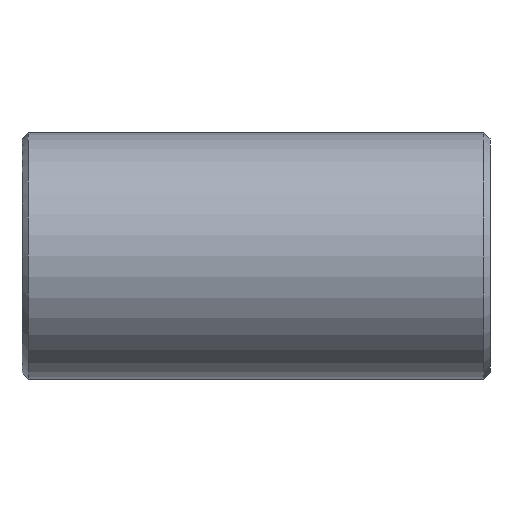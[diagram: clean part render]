
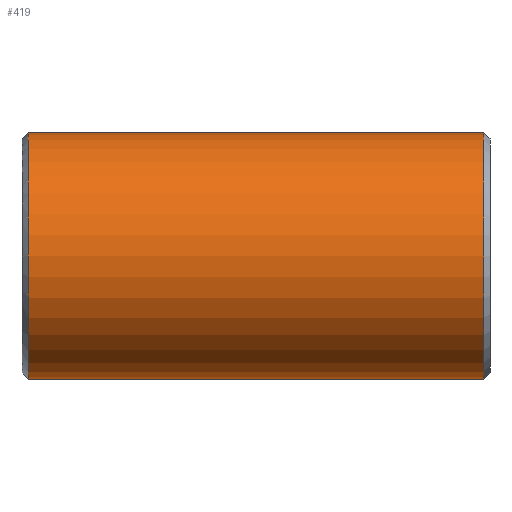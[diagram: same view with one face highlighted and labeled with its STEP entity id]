
A CAD part, front view. The second image highlights one B-rep face of the part: STEP entity #419.
In plain terms, the highlighted cylindrical face has radius 20 mm (diameter 40 mm), a partial arc.
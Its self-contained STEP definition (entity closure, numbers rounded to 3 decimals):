
#231=CARTESIAN_POINT('Vertex',(1.,0.,-20.)) ;
#238=CARTESIAN_POINT('Vertex',(1.,0.,20.)) ;
#267=CARTESIAN_POINT('Axis2P3D Location',(1.,0.,0.)) ;
#271=CARTESIAN_POINT('Vertex',(1.,-20.,0.)) ;
#274=CARTESIAN_POINT('Axis2P3D Location',(1.,0.,0.)) ;
#359=CARTESIAN_POINT('Line Origine',(76.,0.,20.)) ;
#363=CARTESIAN_POINT('Vertex',(75.,0.,20.)) ;
#377=CARTESIAN_POINT('Vertex',(75.,0.,-20.)) ;
#380=CARTESIAN_POINT('Line Origine',(76.,0.,-20.)) ;
#394=CARTESIAN_POINT('Axis2P3D Location',(76.,0.,0.)) ;
#399=CARTESIAN_POINT('Axis2P3D Location',(75.,0.,0.)) ;
#403=CARTESIAN_POINT('Vertex',(75.,-20.,0.)) ;
#406=CARTESIAN_POINT('Axis2P3D Location',(75.,0.,0.)) ;
#268=DIRECTION('Axis2P3D Direction',(1.,0.,-0.)) ;
#275=DIRECTION('Axis2P3D Direction',(1.,0.,-0.)) ;
#360=DIRECTION('Vector Direction',(-1.,0.,0.)) ;
#381=DIRECTION('Vector Direction',(-1.,0.,0.)) ;
#395=DIRECTION('Axis2P3D Direction',(-1.,-0.,-0.)) ;
#396=DIRECTION('Axis2P3D XDirection',(0.,0.,-1.)) ;
#400=DIRECTION('Axis2P3D Direction',(-1.,-0.,-0.)) ;
#407=DIRECTION('Axis2P3D Direction',(-1.,-0.,-0.)) ;
#269=AXIS2_PLACEMENT_3D('Circle Axis2P3D',#267,#268,$) ;
#276=AXIS2_PLACEMENT_3D('Circle Axis2P3D',#274,#275,$) ;
#397=AXIS2_PLACEMENT_3D('Cylinder Axis2P3D',#394,#395,#396) ;
#401=AXIS2_PLACEMENT_3D('Circle Axis2P3D',#399,#400,$) ;
#408=AXIS2_PLACEMENT_3D('Circle Axis2P3D',#406,#407,$) ;
#412=ORIENTED_EDGE('',*,*,#384,.T.) ;
#413=ORIENTED_EDGE('',*,*,#405,.F.) ;
#414=ORIENTED_EDGE('',*,*,#410,.F.) ;
#415=ORIENTED_EDGE('',*,*,#365,.T.) ;
#416=ORIENTED_EDGE('',*,*,#278,.T.) ;
#417=ORIENTED_EDGE('',*,*,#273,.T.) ;
#361=VECTOR('Line Direction',#360,1.) ;
#382=VECTOR('Line Direction',#381,1.) ;
#419=ADVANCED_FACE('352-32X76',(#418),#398,.T.) ;
#270=CIRCLE('generated circle',#269,20.) ;
#277=CIRCLE('generated circle',#276,20.) ;
#402=CIRCLE('generated circle',#401,20.) ;
#409=CIRCLE('generated circle',#408,20.) ;
#398=CYLINDRICAL_SURFACE('generated cylinder',#397,20.) ;
#273=EDGE_CURVE('',#272,#232,#270,.T.) ;
#278=EDGE_CURVE('',#239,#272,#277,.T.) ;
#365=EDGE_CURVE('',#364,#239,#362,.T.) ;
#384=EDGE_CURVE('',#232,#378,#383,.F.) ;
#405=EDGE_CURVE('',#404,#378,#402,.F.) ;
#410=EDGE_CURVE('',#364,#404,#409,.F.) ;
#411=EDGE_LOOP('',(#412,#413,#414,#415,#416,#417)) ;
#418=FACE_OUTER_BOUND('',#411,.T.) ;
#362=LINE('Line',#359,#361) ;
#383=LINE('Line',#380,#382) ;
#232=VERTEX_POINT('',#231) ;
#239=VERTEX_POINT('',#238) ;
#272=VERTEX_POINT('',#271) ;
#364=VERTEX_POINT('',#363) ;
#378=VERTEX_POINT('',#377) ;
#404=VERTEX_POINT('',#403) ;
